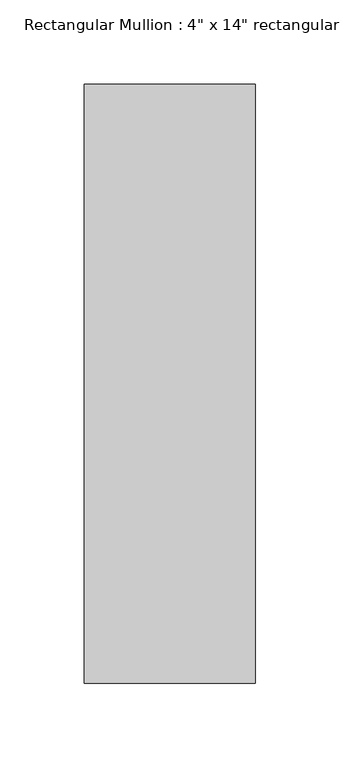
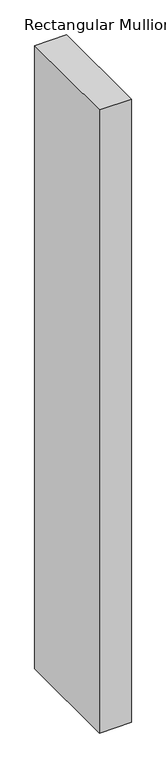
"""IFC4 building model written with IfcOpenShell, lengths in millimetres: member geometry."""

import ifcopenshell
import ifcopenshell.guid

model = None  # the IFC model being written
_history = None  # IfcOwnerHistory: only IFC2X3 demands one
_inside = {}  # id of a spatial element -> (the spatial element, [elements in it])
_under = {}  # id of a project, library or spatial element -> (it, [spatial elements below it])
_declared = {}  # id of a project -> (the project, [libraries it declares])
_typed = {}  # id of a type object -> (the type object, [elements of that type])
_made_of = {}  # id of a material, layer set ... -> (it, [elements and type objects made of it])


def new_model(schema):
    """Start an empty IFC model of exactly this schema.

    Asked for "IFC4X3", IfcOpenShell would pick the latest addendum, in which some entities
    have other attributes; the version numbers below select the first issue.
    IFC2X3 requires an IfcOwnerHistory on every rooted entity: one is made here for all.
    """
    global model, _history
    if schema == "IFC4X3":
        model = ifcopenshell.file(schema_version=(4, 3, 0, 0))
    else:
        model = ifcopenshell.file(schema=schema)
    _inside.clear()
    _under.clear()
    _declared.clear()
    _typed.clear()
    _made_of.clear()
    _history = None
    if model.schema == "IFC2X3":
        org = make("IfcOrganization", Name="unknown")
        user = make(
            "IfcPersonAndOrganization",
            ThePerson=make("IfcPerson", FamilyName="unknown"),
            TheOrganization=org,
        )
        app = make(
            "IfcApplication",
            ApplicationDeveloper=org,
            Version="unknown",
            ApplicationFullName="unknown",
            ApplicationIdentifier="unknown",
        )
        _history = make(
            "IfcOwnerHistory",
            OwningUser=user,
            OwningApplication=app,
            ChangeAction="ADDED",
            CreationDate=0,
        )
    return model


def make(cls, **values):
    """One entity of the class cls with the attributes given. An attribute that is None is left unset."""
    return model.create_entity(
        cls, **{name: value for name, value in values.items() if value is not None}
    )


def rooted(cls, **values):
    """An entity with a GlobalId (a new one), such as an element, a storey or a relation."""
    return make(cls, GlobalId=ifcopenshell.guid.new(), OwnerHistory=_history, **values)


def si_unit(unit_type, name, prefix=None):
    """IfcSIUnit, for example si_unit("LENGTHUNIT", "METRE", prefix="MILLI")."""
    return make("IfcSIUnit", UnitType=unit_type, Prefix=prefix, Name=name)


def assignment(units):
    """IfcUnitAssignment: the units of a project."""
    return None if units is None else make("IfcUnitAssignment", Units=units)


def point(xyz):
    """IfcCartesianPoint."""
    return None if xyz is None else make("IfcCartesianPoint", Coordinates=xyz)


def direction(xyz):
    """IfcDirection."""
    return None if xyz is None else make("IfcDirection", DirectionRatios=xyz)


def frame(location, z_axis=None, x_axis=None):
    """IfcAxis2Placement3D, a coordinate frame: its origin and axes. An axis left out is left unset."""
    return make(
        "IfcAxis2Placement3D",
        Location=point(location),
        Axis=direction(z_axis),
        RefDirection=direction(x_axis),
    )


def origin():
    """The frame at (0, 0, 0) with its axes left unset."""
    return frame((0.0, 0.0, 0.0))


def place(relative_to, where):
    """IfcLocalPlacement: puts the frame where relative to a parent placement (None: the world)."""
    return make(
        "IfcLocalPlacement", PlacementRelTo=relative_to, RelativePlacement=where
    )


def context(
    kind, dimensions, precision=None, world=None, true_north=None, identifier=None
):
    """IfcGeometricRepresentationContext, for example the 3D "Model" context."""
    return make(
        "IfcGeometricRepresentationContext",
        ContextIdentifier=identifier,
        ContextType=kind,
        CoordinateSpaceDimension=dimensions,
        Precision=precision,
        WorldCoordinateSystem=world,
        TrueNorth=true_north,
    )


def project(units=None, contexts=None):
    """IfcProject with its units and contexts."""
    return rooted(
        "IfcProject",
        Name="project",
        RepresentationContexts=contexts,
        UnitsInContext=assignment(units),
    )


def spatial(cls, under=None, at=None, **own):
    """A site, building, storey or space (cls), placed at a placement, below another one or the project."""
    s = rooted(cls, ObjectPlacement=at, **own)
    if under is not None:
        _under.setdefault(under.id(), (under, []))[1].append(s)
    return s


def polyline(points):
    """IfcPolyline through the points."""
    return make("IfcPolyline", Points=[point(p) for p in points])


def outline(outer, holes=None, kind="AREA"):
    """IfcArbitraryClosedProfileDef: a profile drawn as a closed curve; with holes, ...WithVoids."""
    if holes is None:
        return make("IfcArbitraryClosedProfileDef", ProfileType=kind, OuterCurve=outer)
    return make(
        "IfcArbitraryProfileDefWithVoids",
        ProfileType=kind,
        OuterCurve=outer,
        InnerCurves=holes,
    )


def extrude(swept, where, along, depth):
    """IfcExtrudedAreaSolid: the profile swept, set in the frame where, extruded along a direction by depth."""
    return make(
        "IfcExtrudedAreaSolid",
        SweptArea=swept,
        Position=where,
        ExtrudedDirection=direction(along),
        Depth=depth,
    )


def shape(context_of_items, identifier, shape_type, items):
    """IfcShapeRepresentation: the items that make up one representation, for example the "Body"."""
    return make(
        "IfcShapeRepresentation",
        ContextOfItems=context_of_items,
        RepresentationIdentifier=identifier,
        RepresentationType=shape_type,
        Items=items,
    )


def source(mapping_origin, context_of_items, identifier, shape_type, items):
    """IfcRepresentationMap: a shape defined once, which mapped items show again and again."""
    return make(
        "IfcRepresentationMap",
        MappingOrigin=mapping_origin,
        MappedRepresentation=shape(context_of_items, identifier, shape_type, items),
    )


def transform(
    local_origin,
    x_axis=None,
    y_axis=None,
    z_axis=None,
    scale=None,
    scale2=None,
    scale3=None,
    uniform=True,
):
    """IfcCartesianTransformationOperator3D, or its non-uniform kind. x_axis, y_axis, z_axis: its Axis1, 2, 3."""
    if uniform:
        return make(
            "IfcCartesianTransformationOperator3D",
            Axis1=direction(x_axis),
            Axis2=direction(y_axis),
            LocalOrigin=point(local_origin),
            Scale=scale,
            Axis3=direction(z_axis),
        )
    return make(
        "IfcCartesianTransformationOperator3DnonUniform",
        Axis1=direction(x_axis),
        Axis2=direction(y_axis),
        LocalOrigin=point(local_origin),
        Scale=scale,
        Axis3=direction(z_axis),
        Scale2=scale2,
        Scale3=scale3,
    )


def mapped(mapping_source, mapping_target):
    """IfcMappedItem: shows the shape of a source again, moved by a transform."""
    return make(
        "IfcMappedItem", MappingSource=mapping_source, MappingTarget=mapping_target
    )


def made_of(thing, what):
    """Note that an element or type object is made of a material, layer set ...; save() writes the relation."""
    if what is not None:
        _made_of.setdefault(what.id(), (what, []))[1].append(thing)
    return thing


def element(
    cls,
    number,
    at=None,
    inside=None,
    cuts=None,
    type_object=None,
    material=None,
    context=None,
    identifier="Body",
    shape_type=None,
    held_by="IfcProductDefinitionShape",
    body=None,
    shapes=None,
    **own,
):
    """One element of the class cls, such as IfcWall. Its Tag is "e" and its number.

    at: its placement. inside: the storey or other place that contains it. cuts: it is an
    opening in that element (IfcRelVoidsElement). A single representation is given by context,
    identifier, shape_type and body (its items); several are given by shapes. held_by: the class
    of the entity that holds the representations. save() writes the other relations.
    """
    e = rooted(cls, Tag="e%d" % number, ObjectPlacement=at, **own)
    if body is not None:
        shapes = [shape(context, identifier, shape_type, body)]
    if shapes is not None:
        e.Representation = make(held_by, Representations=shapes)
    if inside is not None:
        _inside.setdefault(inside.id(), (inside, []))[1].append(e)
    if cuts is not None:
        rooted(
            "IfcRelVoidsElement", RelatingBuildingElement=cuts, RelatedOpeningElement=e
        )
    if type_object is not None:
        _typed.setdefault(type_object.id(), (type_object, []))[1].append(e)
    return made_of(e, material)


def aggregate(whole, parts):
    """IfcRelAggregates: a whole, such as a stair, and the parts it consists of."""
    return rooted("IfcRelAggregates", RelatingObject=whole, RelatedObjects=parts)


def save(model, path):
    """Write the relations noted so far, then the file.

    IfcRelAggregates (storeys below a building ...), IfcRelContainedInSpatialStructure (elements
    in a storey), IfcRelDefinesByType, IfcRelAssociatesMaterial and IfcRelDeclares: one each for
    every whole, place, type object, material and project.
    """
    for whole, parts in _under.values():
        aggregate(whole, parts)
    for where, things in _inside.values():
        rooted(
            "IfcRelContainedInSpatialStructure",
            RelatedElements=things,
            RelatingStructure=where,
        )
    for kind, things in _typed.values():
        rooted("IfcRelDefinesByType", RelatedObjects=things, RelatingType=kind)
    for what, things in _made_of.values():
        rooted("IfcRelAssociatesMaterial", RelatedObjects=things, RelatingMaterial=what)
    for by, libraries in _declared.values():
        rooted("IfcRelDeclares", RelatingContext=by, RelatedDefinitions=libraries)
    model.write(path)


def member_fd586078(model_context):
    return source(origin(), model_context, "Body", "SweptSolid", [
        extrude(outline(polyline([(50.8, 292.1), (50.8, -63.5), (-50.8, -63.5), (-50.8, 292.1), (50.8, 292.1)])), frame((0.0, 0.0, -2093.4429406), z_axis=(0.0, 0.0, 1.0), x_axis=(1.0, 0.0, 0.0)), (0.0, 0.0, 1.0), 2093.4429406),
    ])


if __name__ == "__main__":
    model = new_model("IFC4")
    model_context = context("Model", 3, world=origin())
    ifc_project = project(units=[si_unit("LENGTHUNIT", "METRE", prefix="MILLI")], contexts=[model_context])
    site = spatial("IfcSite", under=ifc_project)
    building = spatial("IfcBuilding", under=site)
    placement = place(None, origin())
    member_shape = member_fd586078(model_context)
    element("IfcMember", 1, ObjectType="Rectangular Mullion : 4\" x 14\" rectangular", at=placement, inside=building, context=model_context, shape_type="MappedRepresentation", body=[
        mapped(member_shape, transform((0.0, 0.0, 0.0), x_axis=(1.0, 0.0, 0.0), y_axis=(0.0, 1.0, 0.0), z_axis=(0.0, 0.0, 1.0))),
    ])
    save(model, "model.ifc")
